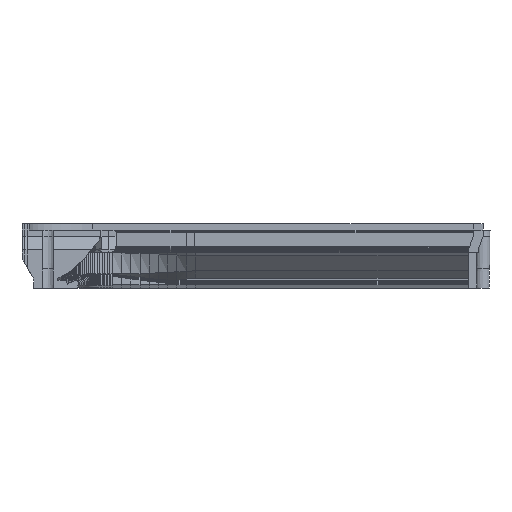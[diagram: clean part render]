
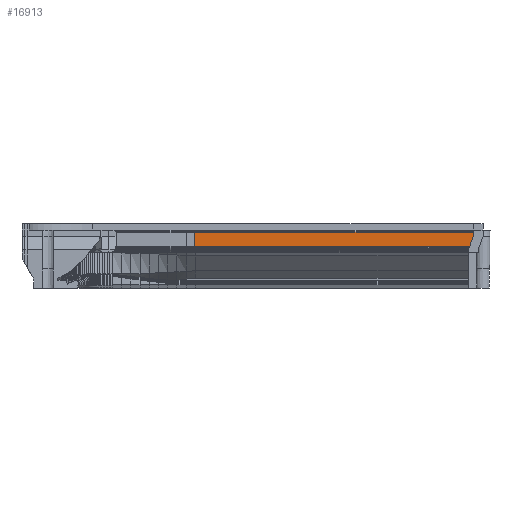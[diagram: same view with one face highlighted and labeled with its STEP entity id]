
A CAD part, left-side view. The second image highlights one B-rep face of the part: STEP entity #16913.
In plain terms, the highlighted planar face has unit normal (-1, 0, 0).
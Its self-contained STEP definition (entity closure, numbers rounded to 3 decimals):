
#1182 = PLANE('',#1183);
#1183 = AXIS2_PLACEMENT_3D('',#1184,#1185,#1186);
#1184 = CARTESIAN_POINT('',(182.,110.7,4.));
#1185 = DIRECTION('',(0.,1.,-0.));
#1186 = DIRECTION('',(-0.772,0.,0.635));
#1237 = PLANE('',#1238);
#1238 = AXIS2_PLACEMENT_3D('',#1239,#1240,#1241);
#1239 = CARTESIAN_POINT('',(-161.6,-1.9,38.));
#1240 = DIRECTION('',(0.,-1.,0.));
#1241 = DIRECTION('',(1.,0.,0.));
#2998 = PLANE('',#2999);
#2999 = AXIS2_PLACEMENT_3D('',#3000,#3001,#3002);
#3000 = CARTESIAN_POINT('',(-161.6,-1.9,21.));
#3001 = DIRECTION('',(0.,-0.94,-0.342));
#3002 = DIRECTION('',(1.,0.,0.));
#3012 = EDGE_CURVE('',#3013,#3015,#3017,.T.);
#3013 = VERTEX_POINT('',#3014);
#3014 = CARTESIAN_POINT('',(158.5,-1.9,21.));
#3015 = VERTEX_POINT('',#3016);
#3016 = CARTESIAN_POINT('',(158.5,-1.9,22.7));
#3017 = SURFACE_CURVE('',#3018,(#3022,#3028),.PCURVE_S1.);
#3018 = LINE('',#3019,#3020);
#3019 = CARTESIAN_POINT('',(158.5,-1.9,27.5));
#3020 = VECTOR('',#3021,1.);
#3021 = DIRECTION('',(0.,0.,1.));
#3022 = PCURVE('',#1237,#3023);
#3023 = DEFINITIONAL_REPRESENTATION('',(#3024),#3027);
#3024 = B_SPLINE_CURVE_WITH_KNOTS('',1,(#3025,#3026),.UNSPECIFIED.,.F.,
  .F.,(2,2),(-6.5,-4.8),.PIECEWISE_BEZIER_KNOTS.);
#3025 = CARTESIAN_POINT('',(320.1,-17.));
#3026 = CARTESIAN_POINT('',(320.1,-15.3));
#3027 = ( GEOMETRIC_REPRESENTATION_CONTEXT(2) 
PARAMETRIC_REPRESENTATION_CONTEXT() REPRESENTATION_CONTEXT('2D SPACE',''
  ) );
#3028 = PCURVE('',#3029,#3034);
#3029 = PLANE('',#3030);
#3030 = AXIS2_PLACEMENT_3D('',#3031,#3032,#3033);
#3031 = CARTESIAN_POINT('',(158.5,110.7,17.));
#3032 = DIRECTION('',(-1.,0.,0.));
#3033 = DIRECTION('',(0.,0.,1.));
#3034 = DEFINITIONAL_REPRESENTATION('',(#3035),#3038);
#3035 = B_SPLINE_CURVE_WITH_KNOTS('',1,(#3036,#3037),.UNSPECIFIED.,.F.,
  .F.,(2,2),(-6.5,-4.8),.PIECEWISE_BEZIER_KNOTS.);
#3036 = CARTESIAN_POINT('',(4.,-112.6));
#3037 = CARTESIAN_POINT('',(5.7,-112.6));
#3038 = ( GEOMETRIC_REPRESENTATION_CONTEXT(2) 
PARAMETRIC_REPRESENTATION_CONTEXT() REPRESENTATION_CONTEXT('2D SPACE',''
  ) );
#3357 = PLANE('',#3358);
#3358 = AXIS2_PLACEMENT_3D('',#3359,#3360,#3361);
#3359 = CARTESIAN_POINT('',(158.5,110.7,22.7));
#3360 = DIRECTION('',(-0.998,0.,0.065));
#3361 = DIRECTION('',(0.065,0.,0.998));
#4374 = VERTEX_POINT('',#4375);
#4375 = CARTESIAN_POINT('',(158.5,110.7,17.));
#4389 = PLANE('',#4390);
#4390 = AXIS2_PLACEMENT_3D('',#4391,#4392,#4393);
#4391 = CARTESIAN_POINT('',(158.521,110.7,16.674));
#4392 = DIRECTION('',(-0.998,0.,-0.065));
#4393 = DIRECTION('',(-0.065,0.,0.998));
#4401 = EDGE_CURVE('',#4374,#4402,#4404,.T.);
#4402 = VERTEX_POINT('',#4403);
#4403 = CARTESIAN_POINT('',(158.5,110.7,22.7));
#4404 = SURFACE_CURVE('',#4405,(#4409,#4416),.PCURVE_S1.);
#4405 = LINE('',#4406,#4407);
#4406 = CARTESIAN_POINT('',(158.5,110.7,17.));
#4407 = VECTOR('',#4408,1.);
#4408 = DIRECTION('',(0.,0.,1.));
#4409 = PCURVE('',#1182,#4410);
#4410 = DEFINITIONAL_REPRESENTATION('',(#4411),#4415);
#4411 = LINE('',#4412,#4413);
#4412 = CARTESIAN_POINT('',(26.408,-4.884));
#4413 = VECTOR('',#4414,1.);
#4414 = DIRECTION('',(0.635,0.772));
#4415 = ( GEOMETRIC_REPRESENTATION_CONTEXT(2) 
PARAMETRIC_REPRESENTATION_CONTEXT() REPRESENTATION_CONTEXT('2D SPACE',''
  ) );
#4416 = PCURVE('',#3029,#4417);
#4417 = DEFINITIONAL_REPRESENTATION('',(#4418),#4422);
#4418 = LINE('',#4419,#4420);
#4419 = CARTESIAN_POINT('',(0.,0.));
#4420 = VECTOR('',#4421,1.);
#4421 = DIRECTION('',(1.,0.));
#4422 = ( GEOMETRIC_REPRESENTATION_CONTEXT(2) 
PARAMETRIC_REPRESENTATION_CONTEXT() REPRESENTATION_CONTEXT('2D SPACE',''
  ) );
#14977 = EDGE_CURVE('',#14978,#3013,#14980,.T.);
#14978 = VERTEX_POINT('',#14979);
#14979 = CARTESIAN_POINT('',(158.5,-0.445,17.));
#14980 = SURFACE_CURVE('',#14981,(#14985,#14991),.PCURVE_S1.);
#14981 = LINE('',#14982,#14983);
#14982 = CARTESIAN_POINT('',(158.5,5.318,1.152));
#14983 = VECTOR('',#14984,1.);
#14984 = DIRECTION('',(0.,-0.342,0.94));
#14985 = PCURVE('',#2998,#14986);
#14986 = DEFINITIONAL_REPRESENTATION('',(#14987),#14990);
#14987 = B_SPLINE_CURVE_WITH_KNOTS('',1,(#14988,#14989),.UNSPECIFIED.,
  .F.,.F.,(2,2),(16.863,21.12),
  .PIECEWISE_BEZIER_KNOTS.);
#14988 = CARTESIAN_POINT('',(320.1,-4.256));
#14989 = CARTESIAN_POINT('',(320.1,0.));
#14990 = ( GEOMETRIC_REPRESENTATION_CONTEXT(2) 
PARAMETRIC_REPRESENTATION_CONTEXT() REPRESENTATION_CONTEXT('2D SPACE',''
  ) );
#14991 = PCURVE('',#3029,#14992);
#14992 = DEFINITIONAL_REPRESENTATION('',(#14993),#14996);
#14993 = B_SPLINE_CURVE_WITH_KNOTS('',1,(#14994,#14995),.UNSPECIFIED.,
  .F.,.F.,(2,2),(16.863,21.12),
  .PIECEWISE_BEZIER_KNOTS.);
#14994 = CARTESIAN_POINT('',(0.,-111.145));
#14995 = CARTESIAN_POINT('',(4.,-112.6));
#14996 = ( GEOMETRIC_REPRESENTATION_CONTEXT(2) 
PARAMETRIC_REPRESENTATION_CONTEXT() REPRESENTATION_CONTEXT('2D SPACE',''
  ) );
#16913 = ADVANCED_FACE('',(#16914),#3029,.T.);
#16914 = FACE_BOUND('',#16915,.T.);
#16915 = EDGE_LOOP('',(#16916,#16917,#16938,#16939,#16940));
#16916 = ORIENTED_EDGE('',*,*,#4401,.F.);
#16917 = ORIENTED_EDGE('',*,*,#16918,.T.);
#16918 = EDGE_CURVE('',#4374,#14978,#16919,.T.);
#16919 = SURFACE_CURVE('',#16920,(#16924,#16931),.PCURVE_S1.);
#16920 = LINE('',#16921,#16922);
#16921 = CARTESIAN_POINT('',(158.5,110.7,17.));
#16922 = VECTOR('',#16923,1.);
#16923 = DIRECTION('',(0.,-1.,0.));
#16924 = PCURVE('',#3029,#16925);
#16925 = DEFINITIONAL_REPRESENTATION('',(#16926),#16930);
#16926 = LINE('',#16927,#16928);
#16927 = CARTESIAN_POINT('',(0.,0.));
#16928 = VECTOR('',#16929,1.);
#16929 = DIRECTION('',(0.,-1.));
#16930 = ( GEOMETRIC_REPRESENTATION_CONTEXT(2) 
PARAMETRIC_REPRESENTATION_CONTEXT() REPRESENTATION_CONTEXT('2D SPACE',''
  ) );
#16931 = PCURVE('',#4389,#16932);
#16932 = DEFINITIONAL_REPRESENTATION('',(#16933),#16937);
#16933 = LINE('',#16934,#16935);
#16934 = CARTESIAN_POINT('',(0.327,0.));
#16935 = VECTOR('',#16936,1.);
#16936 = DIRECTION('',(0.,-1.));
#16937 = ( GEOMETRIC_REPRESENTATION_CONTEXT(2) 
PARAMETRIC_REPRESENTATION_CONTEXT() REPRESENTATION_CONTEXT('2D SPACE',''
  ) );
#16938 = ORIENTED_EDGE('',*,*,#14977,.T.);
#16939 = ORIENTED_EDGE('',*,*,#3012,.T.);
#16940 = ORIENTED_EDGE('',*,*,#16941,.F.);
#16941 = EDGE_CURVE('',#4402,#3015,#16942,.T.);
#16942 = SURFACE_CURVE('',#16943,(#16947,#16954),.PCURVE_S1.);
#16943 = LINE('',#16944,#16945);
#16944 = CARTESIAN_POINT('',(158.5,110.7,22.7));
#16945 = VECTOR('',#16946,1.);
#16946 = DIRECTION('',(0.,-1.,0.));
#16947 = PCURVE('',#3029,#16948);
#16948 = DEFINITIONAL_REPRESENTATION('',(#16949),#16953);
#16949 = LINE('',#16950,#16951);
#16950 = CARTESIAN_POINT('',(5.7,0.));
#16951 = VECTOR('',#16952,1.);
#16952 = DIRECTION('',(0.,-1.));
#16953 = ( GEOMETRIC_REPRESENTATION_CONTEXT(2) 
PARAMETRIC_REPRESENTATION_CONTEXT() REPRESENTATION_CONTEXT('2D SPACE',''
  ) );
#16954 = PCURVE('',#3357,#16955);
#16955 = DEFINITIONAL_REPRESENTATION('',(#16956),#16960);
#16956 = LINE('',#16957,#16958);
#16957 = CARTESIAN_POINT('',(0.,0.));
#16958 = VECTOR('',#16959,1.);
#16959 = DIRECTION('',(0.,-1.));
#16960 = ( GEOMETRIC_REPRESENTATION_CONTEXT(2) 
PARAMETRIC_REPRESENTATION_CONTEXT() REPRESENTATION_CONTEXT('2D SPACE',''
  ) );
